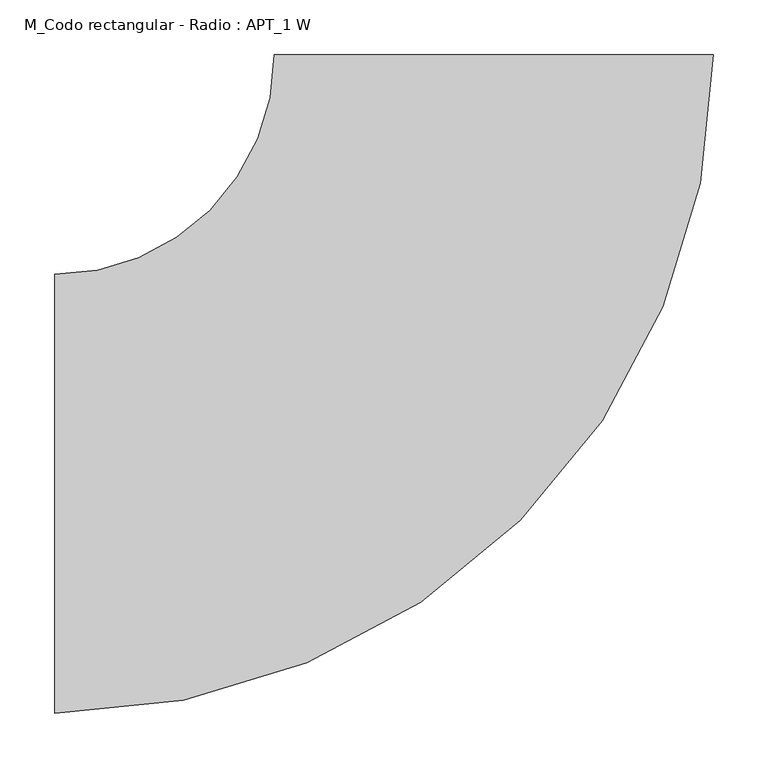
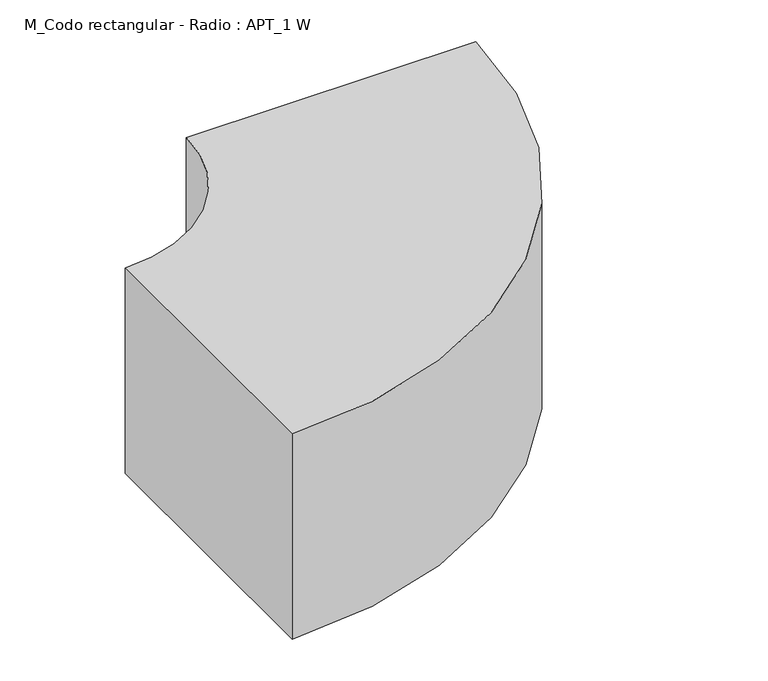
"""IFC4 building model written with IfcOpenShell, lengths in millimetres: duct fitting geometry, M_Codo rectangular - Radio : APT_1 W."""

from ifc_helpers import new_model, si_unit, point, frame, frame_2d, origin, place, context, project, spatial, polyline, circle_curve, trimmed, segment, composite_curve, outline, extrude, source, transform, mapped, element, save


def m_codo_rectangular_radio_apt_1_w_3d36b4d6(model_context):
    return source(origin(), model_context, "Body", "SweptSolid", [
        extrude(outline(composite_curve([segment(trimmed(circle_curve(frame_2d((-400.0, 400.0)), 600.0), [point((200.0, 400.0))], [point((-400.0, -200.0))], False, "CARTESIAN"), True, "CONTINUOUS"), segment(polyline([(-400.0, -200.0), (-400.0, 200.0)]), True, "CONTINUOUS"), segment(trimmed(circle_curve(frame_2d((-400.0, 400.0)), 200.0), [point((-400.0, 200.0))], [point((-200.0, 400.0))], True, "CARTESIAN"), True, "CONTINUOUS"), segment(polyline([(-200.0, 400.0), (200.0, 400.0)]), True, "CONTINUOUS")], self_intersect=False)), frame((0.0, 0.0, -150.0), z_axis=(0.0, 0.0, 1.0), x_axis=(1.0, 0.0, 0.0)), (0.0, 0.0, 1.0), 300.0),
    ])


if __name__ == "__main__":
    model = new_model("IFC4")
    model_context = context("Model", 3, world=origin())
    ifc_project = project(units=[si_unit("LENGTHUNIT", "METRE", prefix="MILLI")], contexts=[model_context])
    site = spatial("IfcSite", under=ifc_project)
    building = spatial("IfcBuilding", under=site)
    placement = place(None, origin())
    m_codo_rectangular_radio_apt_1_w_shape = m_codo_rectangular_radio_apt_1_w_3d36b4d6(model_context)
    element("IfcDuctFitting", 1, ObjectType="M_Codo rectangular - Radio : APT_1 W", at=placement, inside=building, context=model_context, shape_type="MappedRepresentation", body=[
        mapped(m_codo_rectangular_radio_apt_1_w_shape, transform((0.0, 0.0, 0.0), x_axis=(1.0, 0.0, 0.0), y_axis=(0.0, 1.0, 0.0), z_axis=(0.0, 0.0, 1.0))),
    ])
    save(model, "model.ifc")
